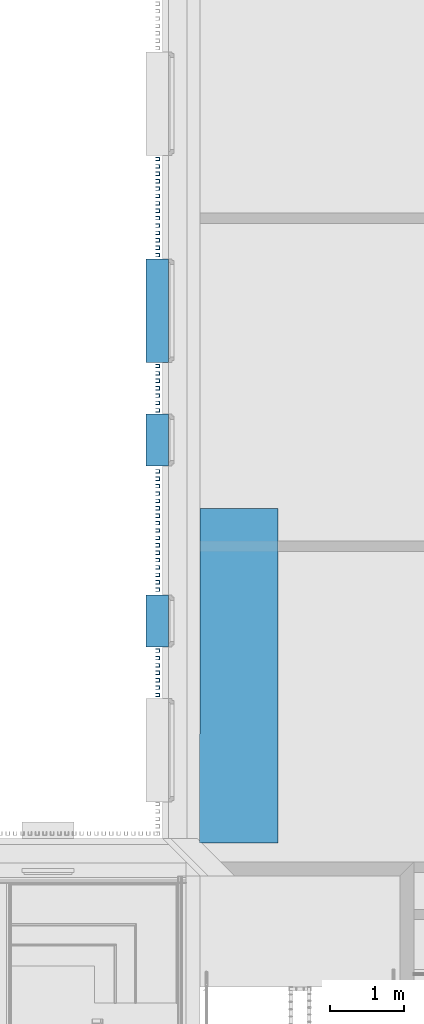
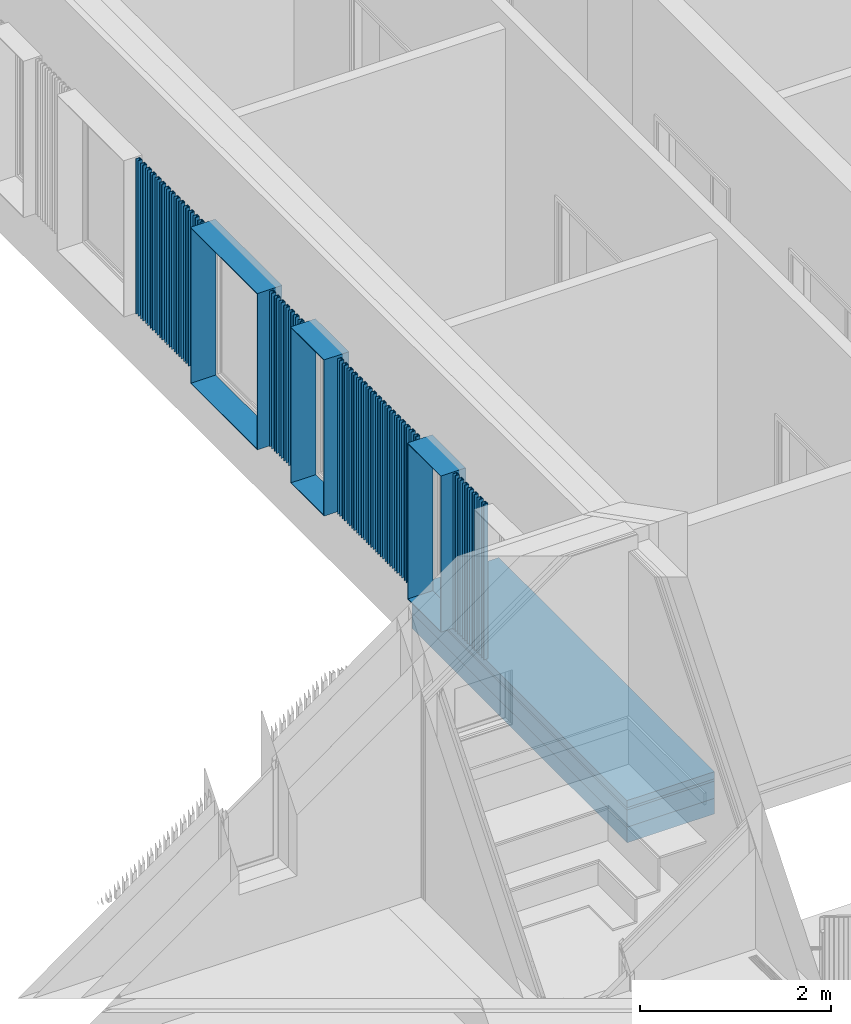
# One storey, part 42 of 100: 48 discrete accessories, 4 building element parts, 1 element without a shape of its own.
"""IFC2X3 building model written with IfcOpenShell, lengths in millimetres."""

from ifc_helpers import new_model, entity, si_unit, converted_unit, derived_unit, money_unit, direction, frame, origin_with_axes, place, context, subcontext, project, spatial, polyline, outline, extrude, faceted_brep, source, transform, mapped, material, type_object, element, aggregate, save


model = new_model("IFC2X3")

# Units and contexts
model_context = context("Model", 3, precision=0.01, world=origin_with_axes(), true_north=direction((0.0, 1.0)))
body_context = subcontext(model_context, "Body", "Model", "MODEL_VIEW")
ifc_project = project(units=[si_unit("LENGTHUNIT", "METRE", prefix="MILLI"), si_unit("AREAUNIT", "SQUARE_METRE"), si_unit("VOLUMEUNIT", "CUBIC_METRE"), converted_unit("PLANEANGLEUNIT", "DEGREE", entity("IfcPlaneAngleMeasure", 0.0174532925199), si_unit("PLANEANGLEUNIT", "RADIAN"), dimensions=[0, 0, 0, 0, 0, 0, 0]), si_unit("SOLIDANGLEUNIT", "STERADIAN"), money_unit("EUR"), converted_unit("TIMEUNIT", "Year", entity("IfcTimeMeasure", 31556926.0), si_unit("TIMEUNIT", "SECOND"), dimensions=[0, 0, 1, 0, 0, 0, 0]), si_unit("MASSUNIT", "GRAM", prefix="KILO"), si_unit("THERMODYNAMICTEMPERATUREUNIT", "DEGREE_CELSIUS"), si_unit("LUMINOUSINTENSITYUNIT", "LUMEN"), si_unit("ENERGYUNIT", "JOULE", prefix="MEGA"), derived_unit("THERMALCONDUCTANCEUNIT", [(si_unit("POWERUNIT", "WATT"), 1), (si_unit("LENGTHUNIT", "METRE"), -1), (si_unit("THERMODYNAMICTEMPERATUREUNIT", "KELVIN"), -1)]), derived_unit("SPECIFICHEATCAPACITYUNIT", [(si_unit("ENERGYUNIT", "JOULE"), 1), (si_unit("MASSUNIT", "GRAM", prefix="KILO"), -1), (si_unit("THERMODYNAMICTEMPERATUREUNIT", "KELVIN"), -1)]), derived_unit("MASSDENSITYUNIT", [(si_unit("MASSUNIT", "GRAM", prefix="KILO"), 1), (si_unit("VOLUMEUNIT", "CUBIC_METRE"), -1)])], contexts=[model_context])

# Site, building, storey
site_placement = place(None, origin_with_axes())
site = spatial("IfcSite", under=ifc_project, at=site_placement, Name="Politse- ja Piirivalveameti ning Päästeameti ühishoone", CompositionType="ELEMENT")
building_placement = place(site_placement, origin_with_axes())
building = spatial("IfcBuilding", under=site, at=building_placement, Name="Politse- ja Piirivalveameti ning Päästeameti ühishoone", CompositionType="ELEMENT")
storey_placement = place(building_placement, frame((0.0, 0.0, 3800.0), z_axis=(0.0, 0.0, 1.0), x_axis=(1.0, 0.0, 0.0)))
storey = spatial("IfcBuildingStorey", under=building, at=storey_placement, Name="Teine korrus", CompositionType="ELEMENT", Elevation=3800.0)

# Discrete accessories
ifc_material_1 = material(Name="SV-01_Krohv - Kips")
discrete_accessory_type_1 = type_object("IfcDiscreteAccessoryType", Name="Architrave 01 23")
shared_shape_1 = source(origin_with_axes(), body_context, "Body", "Brep", [
    faceted_brep([(700.0, 0.0, -10.0), (700.0, -300.182356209, -10.0), (-700.0, -300.182356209, -10.0), (-700.0, 0.0, -10.0), (690.0, 0.0, 0.0), (690.0, -300.182356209, 0.0), (-690.0, -300.182356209, 0.0), (-690.0, 0.0, 0.0)], [[[0, 1, 2, 3]], [[4, 5, 1, 0]], [[1, 5, 6, 2]], [[3, 2, 6, 7]], [[0, 3, 7, 4]], [[7, 6, 5, 4]]]),
    faceted_brep([(-700.0, 0.0, -10.0), (-700.0, -300.182356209, -10.0), (-700.0, -300.182356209, 1990.0), (-700.0, 0.0, 1990.0), (-690.0, 0.0, 0.0), (-690.0, -300.182356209, 0.0), (-690.0, -300.182356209, 1980.0), (-690.0, 0.0, 1980.0)], [[[0, 1, 2, 3]], [[4, 5, 1, 0]], [[1, 5, 6, 2]], [[3, 2, 6, 7]], [[0, 3, 7, 4]], [[7, 6, 5, 4]]]),
    faceted_brep([(-700.0, 0.0, 1990.0), (-700.0, -300.182356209, 1990.0), (700.0, -300.182356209, 1990.0), (700.0, 0.0, 1990.0), (-690.0, 0.0, 1980.0), (-690.0, -300.182356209, 1980.0), (690.0, -300.182356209, 1980.0), (690.0, 0.0, 1980.0)], [[[0, 1, 2, 3]], [[4, 5, 1, 0]], [[1, 5, 6, 2]], [[3, 2, 6, 7]], [[0, 3, 7, 4]], [[7, 6, 5, 4]]]),
    faceted_brep([(700.0, 0.0, 1990.0), (700.0, -300.182356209, 1990.0), (700.0, -300.182356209, -10.0), (700.0, 0.0, -10.0), (690.0, 0.0, 1980.0), (690.0, -300.182356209, 1980.0), (690.0, -300.182356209, 0.0), (690.0, 0.0, 0.0)], [[[0, 1, 2, 3]], [[4, 5, 1, 0]], [[1, 5, 6, 2]], [[3, 2, 6, 7]], [[0, 3, 7, 4]], [[7, 6, 5, 4]]]),
])
discrete_accessory_placement = place(storey_placement, frame((59730.5519118, 28649.4668603, 810.0), z_axis=(0.0, 0.0, 1.0), x_axis=(0.0, -1.0, 0.0)))
element("IfcDiscreteAccessory", 1, at=discrete_accessory_placement, inside=storey, type_object=discrete_accessory_type_1, material=ifc_material_1, Name="AKNARAAM 01", context=body_context, shape_type="MappedRepresentation", body=[
    mapped(shared_shape_1, transform((0.0, 0.0, 0.0))),
])
shared_shape_2 = source(origin_with_axes(), body_context, "Body", "Brep", [
    faceted_brep([(350.0, 0.0, -10.0), (350.0, -300.182356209, -10.0), (-350.0, -300.182356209, -10.0), (-350.0, 0.0, -10.0), (340.0, 0.0, 0.0), (340.0, -300.182356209, 0.0), (-340.0, -300.182356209, 0.0), (-340.0, 0.0, 0.0)], [[[0, 1, 2, 3]], [[4, 5, 1, 0]], [[1, 5, 6, 2]], [[3, 2, 6, 7]], [[0, 3, 7, 4]], [[7, 6, 5, 4]]]),
    faceted_brep([(-350.0, 0.0, -10.0), (-350.0, -300.182356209, -10.0), (-350.0, -300.182356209, 1990.0), (-350.0, 0.0, 1990.0), (-340.0, 0.0, 0.0), (-340.0, -300.182356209, 0.0), (-340.0, -300.182356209, 1980.0), (-340.0, 0.0, 1980.0)], [[[0, 1, 2, 3]], [[4, 5, 1, 0]], [[1, 5, 6, 2]], [[3, 2, 6, 7]], [[0, 3, 7, 4]], [[7, 6, 5, 4]]]),
    faceted_brep([(-350.0, 0.0, 1990.0), (-350.0, -300.182356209, 1990.0), (350.0, -300.182356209, 1990.0), (350.0, 0.0, 1990.0), (-340.0, 0.0, 1980.0), (-340.0, -300.182356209, 1980.0), (340.0, -300.182356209, 1980.0), (340.0, 0.0, 1980.0)], [[[0, 1, 2, 3]], [[4, 5, 1, 0]], [[1, 5, 6, 2]], [[3, 2, 6, 7]], [[0, 3, 7, 4]], [[7, 6, 5, 4]]]),
    faceted_brep([(350.0, 0.0, 1990.0), (350.0, -300.182356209, 1990.0), (350.0, -300.182356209, -10.0), (350.0, 0.0, -10.0), (340.0, 0.0, 1980.0), (340.0, -300.182356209, 1980.0), (340.0, -300.182356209, 0.0), (340.0, 0.0, 0.0)], [[[0, 1, 2, 3]], [[4, 5, 1, 0]], [[1, 5, 6, 2]], [[3, 2, 6, 7]], [[0, 3, 7, 4]], [[7, 6, 5, 4]]]),
])
for number, where, z_axis, x_axis, name in (
    (2, (59730.5519118, 26899.5205286, 810.0), (0.0, 0.0, 1.0), (0.0, -1.0, 0.0), "AKNARAAM 01"),
    (3, (59730.5519118, 24449.9520832, 810.0), (0.0, 0.0, 1.0), (0.0, -1.0, 0.0), "AKNARAAM 01"),
):
    element("IfcDiscreteAccessory", number, at=place(storey_placement, frame(where, z_axis=z_axis, x_axis=x_axis)), inside=storey, type_object=discrete_accessory_type_1, material=ifc_material_1, Name=name, context=body_context, shape_type="MappedRepresentation", body=[
        mapped(shared_shape_2, transform((0.0, 0.0, 0.0))),
    ])
ifc_material_2 = material(Name="ET-05_Teras")
discrete_accessory_type_2 = type_object("IfcDiscreteAccessoryType", Name="UAP Column 23")
shared_shape_3 = source(origin_with_axes(), body_context, "Body", "Brep", [
    faceted_brep([(-25.0, -25.0, 0.0), (-25.0, -25.0, 1990.0), (-25.0, -20.0, 1990.0), (-25.0, -20.0, 0.0), (25.0, -25.0, 0.0), (25.0, -25.0, 1990.0), (25.0, 25.0, 1990.0), (-25.0, 25.0, 1990.0), (-25.0, 20.0, 1990.0), (8.5, 20.0, 1990.0), (14.25, 18.4592921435, 1990.0), (18.4592921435, 14.25, 1990.0), (20.0, 8.5, 1990.0), (20.0, -8.5, 1990.0), (18.4592921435, -14.25, 1990.0), (14.25, -18.4592921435, 1990.0), (8.5, -20.0, 1990.0), (8.5, -20.0, 0.0), (14.25, -18.4592921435, 0.0), (18.4592921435, -14.25, 0.0), (20.0, -8.5, 0.0), (20.0, 8.5, 0.0), (18.4592921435, 14.25, 0.0), (14.25, 18.4592921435, 0.0), (8.5, 20.0, 0.0), (-25.0, 20.0, 0.0), (-25.0, 25.0, 0.0), (25.0, 25.0, 0.0)], [[[0, 1, 2, 3]], [[4, 5, 1, 0]], [[1, 5, 6, 7, 8, 9, 10, 11, 12, 13, 14, 15, 16, 2]], [[3, 2, 16, 17]], [[0, 3, 17, 18, 19, 20, 21, 22, 23, 24, 25, 26, 27, 4]], [[27, 6, 5, 4]], [[26, 7, 6, 27]], [[25, 8, 7, 26]], [[24, 9, 8, 25]], [[23, 10, 9, 24]], [[22, 11, 10, 23]], [[21, 12, 11, 22]], [[20, 13, 12, 21]], [[19, 14, 13, 20]], [[18, 15, 14, 19]], [[17, 16, 15, 18]]]),
])
for number, where, z_axis, x_axis in (
    (4, (59585.9088163, 23749.9520832, 810.000049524), (0.0, 0.0, 1.0), (1.0, 0.0, 0.0)),
    (5, (59585.9088163, 23849.9520832, 810.000049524), (0.0, 0.0, 1.0), (1.0, 0.0, 0.0)),
    (6, (59585.9088163, 23949.9520832, 810.000049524), (0.0, 0.0, 1.0), (1.0, 0.0, 0.0)),
    (7, (59585.9088163, 24049.9520832, 810.000049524), (0.0, 0.0, 1.0), (1.0, 0.0, 0.0)),
    (8, (59585.9088163, 23449.9520832, 810.000049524), (0.0, 0.0, 1.0), (1.0, 0.0, 0.0)),
    (9, (59585.9088163, 23549.9520832, 810.000049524), (0.0, 0.0, 1.0), (1.0, 0.0, 0.0)),
    (10, (59585.9088163, 23649.9520832, 810.000049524), (0.0, 0.0, 1.0), (1.0, 0.0, 0.0)),
    (11, (59585.9088163, 30099.9520832, 810.000049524), (0.0, 0.0, 1.0), (1.0, 0.0, 0.0)),
    (12, (59585.9088163, 30199.9520832, 810.000049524), (0.0, 0.0, 1.0), (1.0, 0.0, 0.0)),
    (13, (59585.9088163, 30299.9520832, 810.000049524), (0.0, 0.0, 1.0), (1.0, 0.0, 0.0)),
    (14, (59585.9088163, 30399.9520832, 810.000049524), (0.0, 0.0, 1.0), (1.0, 0.0, 0.0)),
    (15, (59585.9088163, 30499.9520832, 810.000049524), (0.0, 0.0, 1.0), (1.0, 0.0, 0.0)),
    (16, (59585.9088163, 30599.9520832, 810.000049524), (0.0, 0.0, 1.0), (1.0, 0.0, 0.0)),
    (17, (59585.9088163, 30699.9520832, 810.000049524), (0.0, 0.0, 1.0), (1.0, 0.0, 0.0)),
    (18, (59585.9088163, 29699.9520832, 810.000049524), (0.0, 0.0, 1.0), (1.0, 0.0, 0.0)),
    (19, (59585.9088163, 29799.9520832, 810.000049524), (0.0, 0.0, 1.0), (1.0, 0.0, 0.0)),
    (20, (59585.9088163, 29899.9520832, 810.000049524), (0.0, 0.0, 1.0), (1.0, 0.0, 0.0)),
    (21, (59585.9088163, 29999.9520832, 810.000049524), (0.0, 0.0, 1.0), (1.0, 0.0, 0.0)),
    (22, (59585.9088163, 29399.9520832, 810.000049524), (0.0, 0.0, 1.0), (1.0, 0.0, 0.0)),
    (23, (59585.9088163, 29499.9520832, 810.000049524), (0.0, 0.0, 1.0), (1.0, 0.0, 0.0)),
    (24, (59585.9088163, 29599.9520832, 810.000049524), (0.0, 0.0, 1.0), (1.0, 0.0, 0.0)),
    (25, (59585.9088163, 25574.9520832, 810.000049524), (0.0, 0.0, 1.0), (1.0, 0.0, 0.0)),
    (26, (59585.9088163, 25674.9520832, 810.000049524), (0.0, 0.0, 1.0), (1.0, 0.0, 0.0)),
    (27, (59585.9088163, 25774.9520832, 810.000049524), (0.0, 0.0, 1.0), (1.0, 0.0, 0.0)),
    (28, (59585.9088163, 25874.9520832, 810.000049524), (0.0, 0.0, 1.0), (1.0, 0.0, 0.0)),
    (29, (59585.9088163, 25974.9520832, 810.000049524), (0.0, 0.0, 1.0), (1.0, 0.0, 0.0)),
    (30, (59585.9088163, 26074.9520832, 810.000049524), (0.0, 0.0, 1.0), (1.0, 0.0, 0.0)),
    (31, (59585.9088163, 26174.9520832, 810.000049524), (0.0, 0.0, 1.0), (1.0, 0.0, 0.0)),
    (32, (59585.9088163, 25174.9520832, 810.000049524), (0.0, 0.0, 1.0), (1.0, 0.0, 0.0)),
    (33, (59585.9088163, 25274.9520832, 810.000049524), (0.0, 0.0, 1.0), (1.0, 0.0, 0.0)),
    (34, (59585.9088163, 25374.9520832, 810.000049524), (0.0, 0.0, 1.0), (1.0, 0.0, 0.0)),
    (35, (59585.9088163, 25474.9520832, 810.000049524), (0.0, 0.0, 1.0), (1.0, 0.0, 0.0)),
    (36, (59585.9088163, 24874.9520832, 810.000049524), (0.0, 0.0, 1.0), (1.0, 0.0, 0.0)),
    (37, (59585.9088163, 24974.9520832, 810.000049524), (0.0, 0.0, 1.0), (1.0, 0.0, 0.0)),
    (38, (59585.9088163, 25074.9520832, 810.000049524), (0.0, 0.0, 1.0), (1.0, 0.0, 0.0)),
    (39, (59585.9088163, 26274.9520832, 810.000049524), (0.0, 0.0, 1.0), (1.0, 0.0, 0.0)),
    (40, (59585.9088163, 26374.9520832, 810.000049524), (0.0, 0.0, 1.0), (1.0, 0.0, 0.0)),
    (41, (59585.9088163, 26474.9520832, 810.000049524), (0.0, 0.0, 1.0), (1.0, 0.0, 0.0)),
    (42, (59585.9088163, 27299.9520832, 810.000049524), (0.0, 0.0, 1.0), (1.0, 0.0, 0.0)),
    (43, (59585.9088163, 27399.9520832, 810.000049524), (0.0, 0.0, 1.0), (1.0, 0.0, 0.0)),
    (44, (59585.9088163, 27499.9520832, 810.000049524), (0.0, 0.0, 1.0), (1.0, 0.0, 0.0)),
    (45, (59585.9088163, 27599.9520832, 810.000049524), (0.0, 0.0, 1.0), (1.0, 0.0, 0.0)),
    (46, (59585.9088163, 27699.9520832, 810.000049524), (0.0, 0.0, 1.0), (1.0, 0.0, 0.0)),
    (47, (59585.9088163, 27799.9520832, 810.000049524), (0.0, 0.0, 1.0), (1.0, 0.0, 0.0)),
    (48, (59585.9088163, 27899.9520832, 810.000049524), (0.0, 0.0, 1.0), (1.0, 0.0, 0.0)),
):
    element("IfcDiscreteAccessory", number, at=place(storey_placement, frame(where, z_axis=z_axis, x_axis=x_axis)), inside=storey, type_object=discrete_accessory_type_2, material=ifc_material_2, Name="Fassaadiribid", context=body_context, shape_type="MappedRepresentation", body=[
        mapped(shared_shape_3, transform((0.0, 0.0, 0.0))),
    ])

# Slab, building element parts
slab_type = type_object("IfcSlabType", Name="VL-03_Vahelagi 540", PredefinedType="NOTDEFINED")
slab_placement = place(storey_placement, frame((60160.5519118, 25969.9520832, 0.0), z_axis=(0.0, 0.0, 1.0), x_axis=(1.0, 0.0, 0.0)))
slab = element("IfcSlab", 49, at=slab_placement, inside=storey, type_object=slab_type, Name="VL-03", PredefinedType="NOTDEFINED")
ifc_material_3 = material(Name="SOJ-02_Soojustus - Fiiber Kõva")
building_element_part_1_placement = place(slab_placement, origin_with_axes())
building_element_part_1 = element("IfcBuildingElementPart", 50, at=building_element_part_1_placement, material=ifc_material_3, Name="SOJ-02_Soojustus - Fiiber Kõva", context=body_context, shape_type="SweptSolid", body=[
    extrude(outline(polyline([(0.0, 0.0), (-8.58149574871, -4520.0), (1050.0, -4520.0), (1050.0, 0.0), (0.0, 0.0)])), frame((0.0, 0.0, -540.0), z_axis=(0.0, 0.0, 1.0), x_axis=(1.0, 0.0, 0.0)), (0.0, 0.0, 1.0), 200.0),
])
ifc_material_4 = material(Name="KON-06_Raudbetoon - Konstruktsioon")
building_element_part_2_placement = place(slab_placement, origin_with_axes())
building_element_part_2 = element("IfcBuildingElementPart", 51, at=building_element_part_2_placement, material=ifc_material_4, Name="KON-06_Raudbetoon - Konstruktsioon", context=body_context, shape_type="SweptSolid", body=[
    extrude(outline(polyline([(0.0, 0.0), (-8.58149574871, -4520.0), (1050.0, -4520.0), (1050.0, 0.0), (0.0, 0.0)])), frame((0.0, 0.0, -340.0), z_axis=(0.0, 0.0, 1.0), x_axis=(1.0, 0.0, 0.0)), (0.0, 0.0, 1.0), 220.0),
])
ifc_material_5 = material(Name="SOJ-04_Soojustus - Mineraal Kõva")
building_element_part_3_placement = place(slab_placement, origin_with_axes())
building_element_part_3 = element("IfcBuildingElementPart", 52, at=building_element_part_3_placement, material=ifc_material_5, Name="SOJ-04_Soojustus - Mineraal Kõva", context=body_context, shape_type="SweptSolid", body=[
    extrude(outline(polyline([(0.0, 0.0), (-8.58149574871, -4520.0), (1050.0, -4520.0), (1050.0, 0.0), (0.0, 0.0)])), frame((0.0, 0.0, -120.0), z_axis=(0.0, 0.0, 1.0), x_axis=(1.0, 0.0, 0.0)), (0.0, 0.0, 1.0), 30.0),
])
ifc_material_6 = material(Name="VKR-01_Betoon")
building_element_part_4_placement = place(slab_placement, origin_with_axes())
building_element_part_4 = element("IfcBuildingElementPart", 53, at=building_element_part_4_placement, material=ifc_material_6, Name="VKR-01_Betoon", context=body_context, shape_type="SweptSolid", body=[
    extrude(outline(polyline([(0.0, 0.0), (-8.58149574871, -4520.0), (1050.0, -4520.0), (1050.0, 0.0), (0.0, 0.0)])), frame((0.0, 0.0, -90.0), z_axis=(0.0, 0.0, 1.0), x_axis=(1.0, 0.0, 0.0)), (0.0, 0.0, 1.0), 90.0),
])
aggregate(slab, [building_element_part_1, building_element_part_2, building_element_part_3, building_element_part_4])

save(model, "model.ifc")
